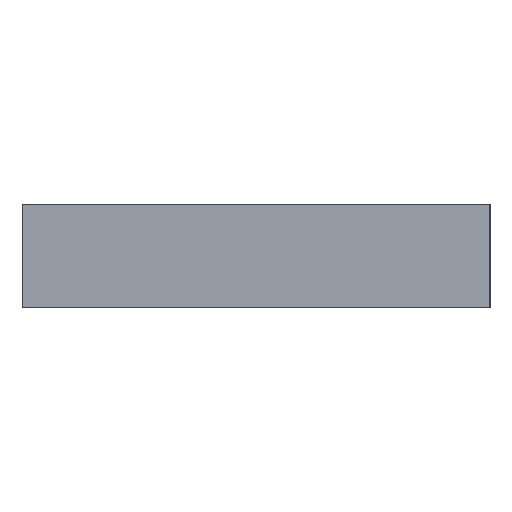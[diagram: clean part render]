
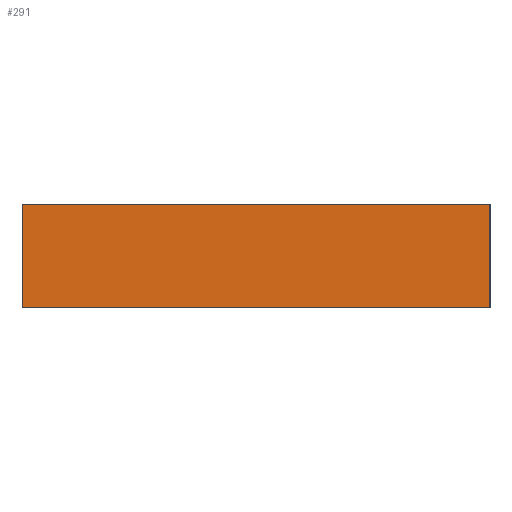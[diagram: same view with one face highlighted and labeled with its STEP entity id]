
A CAD part, left-side view. The second image highlights one B-rep face of the part: STEP entity #291.
In plain terms, the highlighted planar face has unit normal (-1, 0, 0).
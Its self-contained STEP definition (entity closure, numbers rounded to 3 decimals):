
#291=ADVANCED_FACE('',(#635),#637,.T.);
#635=FACE_BOUND('',#636,.T.);
#636=EDGE_LOOP('',(#820,#821,#822,#823));
#637=PLANE('',#638);
#638=AXIS2_PLACEMENT_3D('',#639,#640,#641);
#639=CARTESIAN_POINT('',(-165.,35.,0.));
#640=DIRECTION('',(-1.,0.,0.));
#641=DIRECTION('',(0.,-1.,0.));
#820=ORIENTED_EDGE('',*,*,#839,.T.);
#821=ORIENTED_EDGE('',*,*,#905,.T.);
#822=ORIENTED_EDGE('',*,*,#862,.F.);
#823=ORIENTED_EDGE('',*,*,#902,.F.);
#839=EDGE_CURVE('',#907,#911,#913,.T.);
#862=EDGE_CURVE('',#958,#959,#960,.T.);
#902=EDGE_CURVE('',#907,#958,#1030,.T.);
#905=EDGE_CURVE('',#911,#959,#1033,.T.);
#907=VERTEX_POINT('',#1035);
#911=VERTEX_POINT('',#1043);
#913=LINE('',#1047,#1048);
#958=VERTEX_POINT('',#1156);
#959=VERTEX_POINT('',#1157);
#960=LINE('',#1158,#1159);
#1030=LINE('',#1332,#1333);
#1033=LINE('',#1341,#1342);
#1035=CARTESIAN_POINT('',(-165.,35.,0.));
#1043=CARTESIAN_POINT('',(-165.,-1.,0.));
#1047=CARTESIAN_POINT('',(-165.,35.,0.));
#1048=VECTOR('',#1049,1.);
#1049=DIRECTION('',(0.,-1.,0.));
#1156=CARTESIAN_POINT('',(-165.,35.,8.));
#1157=CARTESIAN_POINT('',(-165.,-1.,8.));
#1158=CARTESIAN_POINT('',(-165.,35.,8.));
#1159=VECTOR('',#1160,1.);
#1160=DIRECTION('',(0.,-1.,0.));
#1332=CARTESIAN_POINT('',(-165.,35.,0.));
#1333=VECTOR('',#1334,1.);
#1334=DIRECTION('',(0.,0.,1.));
#1341=CARTESIAN_POINT('',(-165.,-1.,0.));
#1342=VECTOR('',#1343,1.);
#1343=DIRECTION('',(0.,0.,1.));
